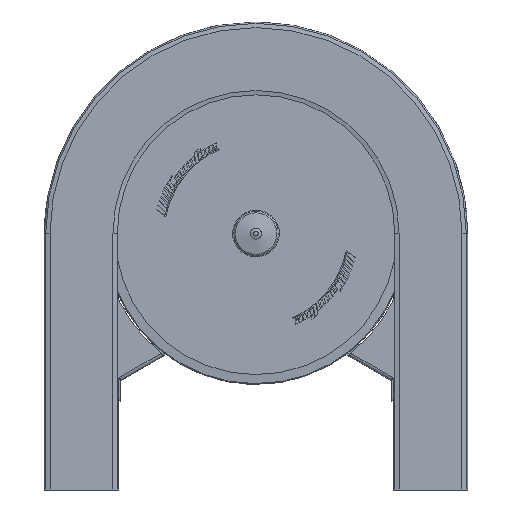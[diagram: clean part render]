
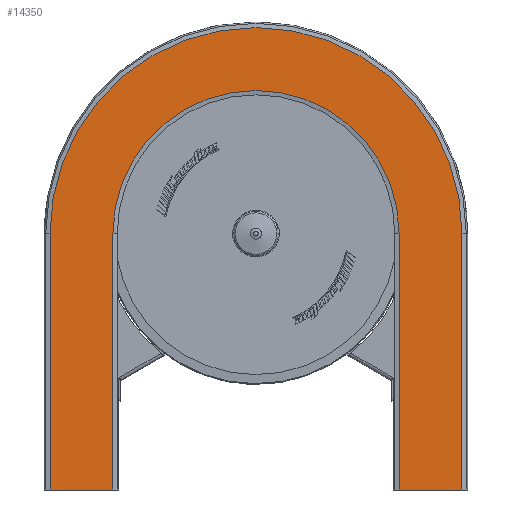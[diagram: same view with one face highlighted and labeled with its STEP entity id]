
A CAD part, front view. The second image highlights one B-rep face of the part: STEP entity #14350.
In plain terms, the highlighted planar face has unit normal (0, -1, 0).
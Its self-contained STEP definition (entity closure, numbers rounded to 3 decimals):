
#1110=FACE_OUTER_BOUND('',#1967,.T.);
#1967=EDGE_LOOP('',(#10488,#10489,#10490,#10491,#10492,#10493,#10494,#10495));
#2836=CIRCLE('',#15470,239.);
#2839=CIRCLE('',#15476,166.);
#3580=LINE('',#22288,#4912);
#3585=LINE('',#22297,#4917);
#3587=LINE('',#22302,#4919);
#3602=LINE('',#22342,#4934);
#3607=LINE('',#22353,#4939);
#3608=LINE('',#22355,#4940);
#4912=VECTOR('',#17359,10.);
#4917=VECTOR('',#17366,10.);
#4919=VECTOR('',#17370,10.);
#4934=VECTOR('',#17411,10.);
#4939=VECTOR('',#17424,10.);
#4940=VECTOR('',#17427,10.);
#6226=VERTEX_POINT('',#22285);
#6227=VERTEX_POINT('',#22287);
#6230=VERTEX_POINT('',#22294);
#6231=VERTEX_POINT('',#22299);
#6241=VERTEX_POINT('',#22325);
#6243=VERTEX_POINT('',#22335);
#6244=VERTEX_POINT('',#22340);
#6246=VERTEX_POINT('',#22351);
#7774=EDGE_CURVE('',#6227,#6226,#3580,.T.);
#7779=EDGE_CURVE('',#6227,#6230,#3585,.T.);
#7781=EDGE_CURVE('',#6226,#6231,#3587,.T.);
#7794=EDGE_CURVE('',#6231,#6241,#2836,.T.);
#7800=EDGE_CURVE('',#6230,#6243,#2839,.T.);
#7802=EDGE_CURVE('',#6241,#6244,#3602,.T.);
#7807=EDGE_CURVE('',#6243,#6246,#3607,.T.);
#7808=EDGE_CURVE('',#6244,#6246,#3608,.T.);
#10488=ORIENTED_EDGE('',*,*,#7808,.T.);
#10489=ORIENTED_EDGE('',*,*,#7807,.F.);
#10490=ORIENTED_EDGE('',*,*,#7800,.F.);
#10491=ORIENTED_EDGE('',*,*,#7779,.F.);
#10492=ORIENTED_EDGE('',*,*,#7774,.T.);
#10493=ORIENTED_EDGE('',*,*,#7781,.T.);
#10494=ORIENTED_EDGE('',*,*,#7794,.T.);
#10495=ORIENTED_EDGE('',*,*,#7802,.T.);
#13791=PLANE('',#15482);
#14350=ADVANCED_FACE('',(#1110),#13791,.T.);
#15470=AXIS2_PLACEMENT_3D('',#22327,#17391,#17392);
#15476=AXIS2_PLACEMENT_3D('',#22338,#17406,#17407);
#15482=AXIS2_PLACEMENT_3D('',#22354,#17425,#17426);
#17359=DIRECTION('',(1.,0.,0.));
#17366=DIRECTION('',(0.,0.,1.));
#17370=DIRECTION('',(0.,0.,1.));
#17391=DIRECTION('center_axis',(0.,-1.,0.));
#17392=DIRECTION('ref_axis',(1.,0.,0.));
#17406=DIRECTION('center_axis',(0.,-1.,0.));
#17407=DIRECTION('ref_axis',(1.,0.,0.));
#17411=DIRECTION('',(0.,0.,-1.));
#17424=DIRECTION('',(0.,0.,-1.));
#17425=DIRECTION('center_axis',(0.,-1.,0.));
#17426=DIRECTION('ref_axis',(0.,0.,1.));
#17427=DIRECTION('',(1.,0.,0.));
#22285=CARTESIAN_POINT('',(36.5,-11.,0.));
#22287=CARTESIAN_POINT('',(-36.5,-11.,0.));
#22288=CARTESIAN_POINT('',(-36.5,-11.,0.));
#22294=CARTESIAN_POINT('',(-36.5,-11.,297.5));
#22297=CARTESIAN_POINT('',(-36.5,-11.,0.));
#22299=CARTESIAN_POINT('',(36.5,-11.,297.5));
#22302=CARTESIAN_POINT('',(36.5,-11.,0.));
#22325=CARTESIAN_POINT('',(-441.5,-11.,297.5));
#22327=CARTESIAN_POINT('Origin',(-202.5,-11.,297.5));
#22335=CARTESIAN_POINT('',(-368.5,-11.,297.5));
#22338=CARTESIAN_POINT('Origin',(-202.5,-11.,297.5));
#22340=CARTESIAN_POINT('',(-441.5,-11.,0.));
#22342=CARTESIAN_POINT('',(-441.5,-11.,1231.173));
#22351=CARTESIAN_POINT('',(-368.5,-11.,0.));
#22353=CARTESIAN_POINT('',(-368.5,-11.,1231.173));
#22354=CARTESIAN_POINT('Origin',(-441.5,-11.,1231.173));
#22355=CARTESIAN_POINT('',(-424.75,-11.,0.));
